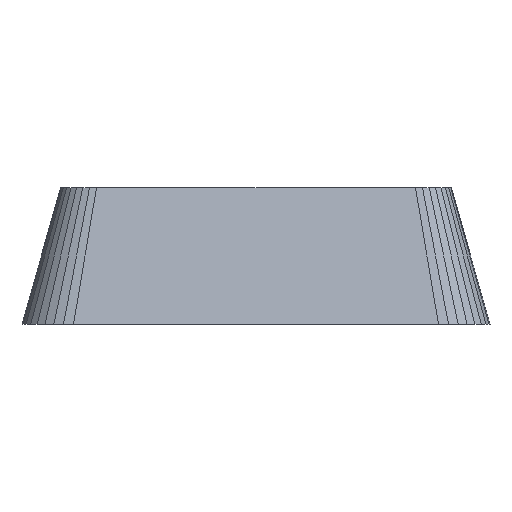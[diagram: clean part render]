
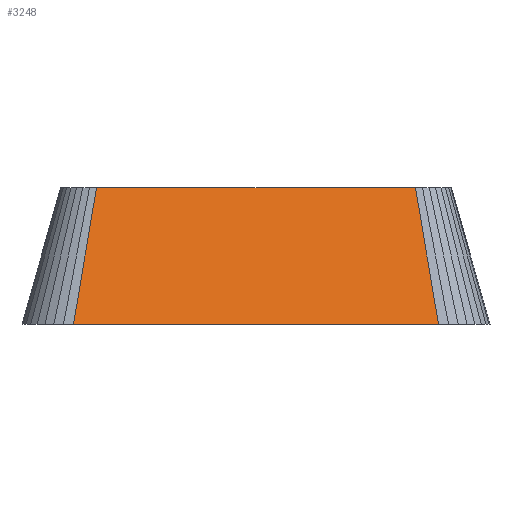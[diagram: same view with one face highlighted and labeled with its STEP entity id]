
A CAD part, front view. The second image highlights one B-rep face of the part: STEP entity #3248.
In plain terms, the highlighted free-form (B-spline) face has degree [1, 1] with [2, 2] control points.
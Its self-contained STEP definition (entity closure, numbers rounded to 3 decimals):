
#44 = PLANE('',#45);
#45 = AXIS2_PLACEMENT_3D('',#46,#47,#48);
#46 = CARTESIAN_POINT('',(9.1,12.1,20.3));
#47 = DIRECTION('',(-0.,0.,-1.));
#48 = DIRECTION('',(-0.748,-0.663,0.));
#98 = PLANE('',#99);
#99 = AXIS2_PLACEMENT_3D('',#100,#101,#102);
#100 = CARTESIAN_POINT('',(7.6,11.2,25.6));
#101 = DIRECTION('',(-0.,0.,-1.));
#102 = DIRECTION('',(-0.741,-0.671,0.));
#359 = VERTEX_POINT('',#360);
#360 = CARTESIAN_POINT('',(7.1,-4.1,20.3));
#374 = B_SPLINE_SURFACE_WITH_KNOTS('',1,1,(
    (#375,#376)
    ,(#377,#378
    )),.UNSPECIFIED.,.F.,.F.,.F.,(2,2),(2,2),(0.,0.392),(0.,1.)
  ,.PIECEWISE_BEZIER_KNOTS.);
#375 = CARTESIAN_POINT('',(7.1,-4.1,20.3));
#376 = CARTESIAN_POINT('',(6.2,-2.6,25.6));
#377 = CARTESIAN_POINT('',(7.49,-4.062,20.3));
#378 = CARTESIAN_POINT('',(6.473,-2.573,25.6));
#386 = EDGE_CURVE('',#387,#359,#389,.T.);
#387 = VERTEX_POINT('',#388);
#388 = CARTESIAN_POINT('',(-7.1,-4.1,20.3));
#389 = SURFACE_CURVE('',#390,(#394,#401),.PCURVE_S1.);
#390 = LINE('',#391,#392);
#391 = CARTESIAN_POINT('',(-7.1,-4.1,20.3));
#392 = VECTOR('',#393,1.);
#393 = DIRECTION('',(1.,0.,0.));
#394 = PCURVE('',#44,#395);
#395 = DEFINITIONAL_REPRESENTATION('',(#396),#400);
#396 = LINE('',#397,#398);
#397 = CARTESIAN_POINT('',(22.869,-1.376));
#398 = VECTOR('',#399,1.);
#399 = DIRECTION('',(-0.748,-0.663));
#400 = ( GEOMETRIC_REPRESENTATION_CONTEXT(2) 
PARAMETRIC_REPRESENTATION_CONTEXT() REPRESENTATION_CONTEXT('2D SPACE',''
  ) );
#401 = PCURVE('',#402,#407);
#402 = B_SPLINE_SURFACE_WITH_KNOTS('',1,1,(
    (#403,#404)
    ,(#405,#406
    )),.UNSPECIFIED.,.F.,.F.,.F.,(2,2),(2,2),(0.,14.2),(0.,1.),
  .PIECEWISE_BEZIER_KNOTS.);
#403 = CARTESIAN_POINT('',(-7.1,-4.1,20.3));
#404 = CARTESIAN_POINT('',(-6.2,-2.6,25.6));
#405 = CARTESIAN_POINT('',(7.1,-4.1,20.3));
#406 = CARTESIAN_POINT('',(6.2,-2.6,25.6));
#407 = DEFINITIONAL_REPRESENTATION('',(#408),#412);
#408 = LINE('',#409,#410);
#409 = CARTESIAN_POINT('',(0.,0.));
#410 = VECTOR('',#411,1.);
#411 = DIRECTION('',(1.,0.));
#412 = ( GEOMETRIC_REPRESENTATION_CONTEXT(2) 
PARAMETRIC_REPRESENTATION_CONTEXT() REPRESENTATION_CONTEXT('2D SPACE',''
  ) );
#430 = B_SPLINE_SURFACE_WITH_KNOTS('',1,1,(
    (#431,#432)
    ,(#433,#434
    )),.UNSPECIFIED.,.F.,.F.,.F.,(2,2),(2,2),(0.,0.392),(0.,1.)
  ,.PIECEWISE_BEZIER_KNOTS.);
#431 = CARTESIAN_POINT('',(-7.49,-4.062,20.3));
#432 = CARTESIAN_POINT('',(-6.473,-2.573,25.6));
#433 = CARTESIAN_POINT('',(-7.1,-4.1,20.3));
#434 = CARTESIAN_POINT('',(-6.2,-2.6,25.6));
#2568 = VERTEX_POINT('',#2569);
#2569 = CARTESIAN_POINT('',(-6.2,-2.6,25.6));
#2589 = EDGE_CURVE('',#2568,#2590,#2592,.T.);
#2590 = VERTEX_POINT('',#2591);
#2591 = CARTESIAN_POINT('',(6.2,-2.6,25.6));
#2592 = SURFACE_CURVE('',#2593,(#2597,#2604),.PCURVE_S1.);
#2593 = LINE('',#2594,#2595);
#2594 = CARTESIAN_POINT('',(-6.2,-2.6,25.6));
#2595 = VECTOR('',#2596,1.);
#2596 = DIRECTION('',(1.,0.,0.));
#2597 = PCURVE('',#98,#2598);
#2598 = DEFINITIONAL_REPRESENTATION('',(#2599),#2603);
#2599 = LINE('',#2600,#2601);
#2600 = CARTESIAN_POINT('',(19.492,-0.968));
#2601 = VECTOR('',#2602,1.);
#2602 = DIRECTION('',(-0.741,-0.671));
#2603 = ( GEOMETRIC_REPRESENTATION_CONTEXT(2) 
PARAMETRIC_REPRESENTATION_CONTEXT() REPRESENTATION_CONTEXT('2D SPACE',''
  ) );
#2604 = PCURVE('',#402,#2605);
#2605 = DEFINITIONAL_REPRESENTATION('',(#2606),#2609);
#2606 = B_SPLINE_CURVE_WITH_KNOTS('',1,(#2607,#2608),.UNSPECIFIED.,.F.,
  .F.,(2,2),(0.,12.4),.PIECEWISE_BEZIER_KNOTS.);
#2607 = CARTESIAN_POINT('',(0.,1.));
#2608 = CARTESIAN_POINT('',(14.2,1.));
#2609 = ( GEOMETRIC_REPRESENTATION_CONTEXT(2) 
PARAMETRIC_REPRESENTATION_CONTEXT() REPRESENTATION_CONTEXT('2D SPACE',''
  ) );
#3203 = EDGE_CURVE('',#359,#2590,#3204,.T.);
#3204 = SURFACE_CURVE('',#3205,(#3208,#3215),.PCURVE_S1.);
#3205 = B_SPLINE_CURVE_WITH_KNOTS('',1,(#3206,#3207),.UNSPECIFIED.,.F.,
  .F.,(2,2),(0.,1.),.PIECEWISE_BEZIER_KNOTS.);
#3206 = CARTESIAN_POINT('',(7.1,-4.1,20.3));
#3207 = CARTESIAN_POINT('',(6.2,-2.6,25.6));
#3208 = PCURVE('',#374,#3209);
#3209 = DEFINITIONAL_REPRESENTATION('',(#3210),#3214);
#3210 = LINE('',#3211,#3212);
#3211 = CARTESIAN_POINT('',(0.,0.));
#3212 = VECTOR('',#3213,1.);
#3213 = DIRECTION('',(0.,1.));
#3214 = ( GEOMETRIC_REPRESENTATION_CONTEXT(2) 
PARAMETRIC_REPRESENTATION_CONTEXT() REPRESENTATION_CONTEXT('2D SPACE',''
  ) );
#3215 = PCURVE('',#402,#3216);
#3216 = DEFINITIONAL_REPRESENTATION('',(#3217),#3221);
#3217 = LINE('',#3218,#3219);
#3218 = CARTESIAN_POINT('',(14.2,0.));
#3219 = VECTOR('',#3220,1.);
#3220 = DIRECTION('',(0.,1.));
#3221 = ( GEOMETRIC_REPRESENTATION_CONTEXT(2) 
PARAMETRIC_REPRESENTATION_CONTEXT() REPRESENTATION_CONTEXT('2D SPACE',''
  ) );
#3248 = ADVANCED_FACE('',(#3249),#402,.T.);
#3249 = FACE_BOUND('',#3250,.T.);
#3250 = EDGE_LOOP('',(#3251,#3252,#3253,#3254));
#3251 = ORIENTED_EDGE('',*,*,#386,.T.);
#3252 = ORIENTED_EDGE('',*,*,#3203,.T.);
#3253 = ORIENTED_EDGE('',*,*,#2589,.F.);
#3254 = ORIENTED_EDGE('',*,*,#3255,.F.);
#3255 = EDGE_CURVE('',#387,#2568,#3256,.T.);
#3256 = SURFACE_CURVE('',#3257,(#3260,#3267),.PCURVE_S1.);
#3257 = B_SPLINE_CURVE_WITH_KNOTS('',1,(#3258,#3259),.UNSPECIFIED.,.F.,
  .F.,(2,2),(0.,1.),.PIECEWISE_BEZIER_KNOTS.);
#3258 = CARTESIAN_POINT('',(-7.1,-4.1,20.3));
#3259 = CARTESIAN_POINT('',(-6.2,-2.6,25.6));
#3260 = PCURVE('',#402,#3261);
#3261 = DEFINITIONAL_REPRESENTATION('',(#3262),#3266);
#3262 = LINE('',#3263,#3264);
#3263 = CARTESIAN_POINT('',(0.,0.));
#3264 = VECTOR('',#3265,1.);
#3265 = DIRECTION('',(0.,1.));
#3266 = ( GEOMETRIC_REPRESENTATION_CONTEXT(2) 
PARAMETRIC_REPRESENTATION_CONTEXT() REPRESENTATION_CONTEXT('2D SPACE',''
  ) );
#3267 = PCURVE('',#430,#3268);
#3268 = DEFINITIONAL_REPRESENTATION('',(#3269),#3273);
#3269 = LINE('',#3270,#3271);
#3270 = CARTESIAN_POINT('',(0.392,0.));
#3271 = VECTOR('',#3272,1.);
#3272 = DIRECTION('',(0.,1.));
#3273 = ( GEOMETRIC_REPRESENTATION_CONTEXT(2) 
PARAMETRIC_REPRESENTATION_CONTEXT() REPRESENTATION_CONTEXT('2D SPACE',''
  ) );
